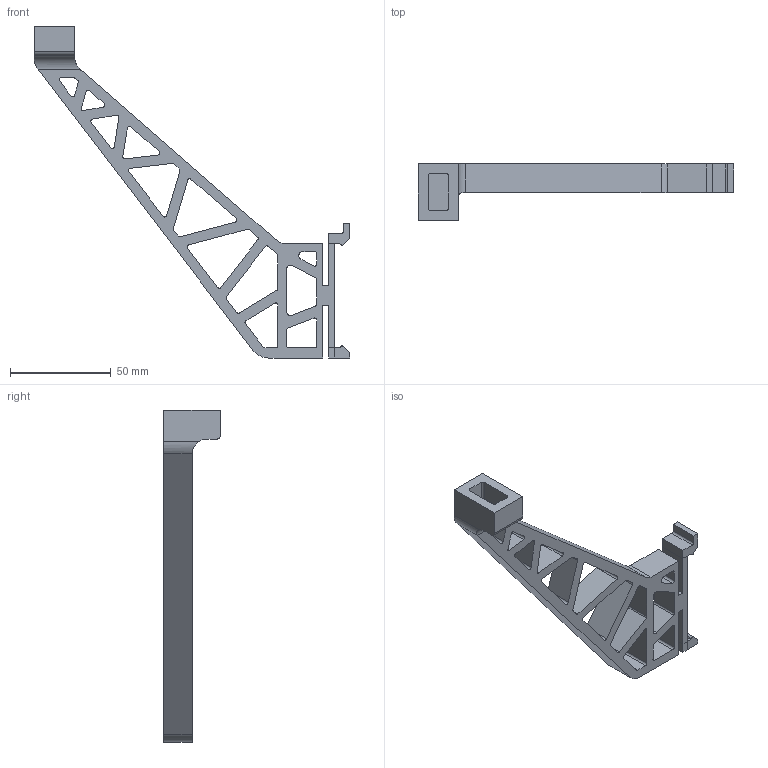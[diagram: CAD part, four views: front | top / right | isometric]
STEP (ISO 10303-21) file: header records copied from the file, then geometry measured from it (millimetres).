
FILE_DESCRIPTION(/* description */ ('STEP AP242','CAx-IF Rec.Pracs.---Representation and Presentation of Product Manufacturing Information (PMI)---4.0---2014-10-13','CAx-IF Rec.Pracs.---3D Tessellated Geometry---0.4---2014-09-14','2;1'),/* implementation_level */ '2;1');
FILE_NAME(/* name */ '6536b39503050d6769cf2f89',/* time_stamp */ '2023-10-23T17:55:33Z',/* author */ (''),/* organization */ (''),/* preprocessor_version */ 'ST-DEVELOPER v19.4',/* originating_system */ ' ',/* authorisation */ ' ');
FILE_SCHEMA (('AP242_MANAGED_MODEL_BASED_3D_ENGINEERING_MIM_LF { 1 0 10303 442 1 1 4 }'));
Length unit declared in the file: metre
Products named in the file (3): Bottom Clip; Arm; Top Clip
Bounding box: 157 x 28.28 x 165 mm (x, y, z)
Volume: 59804.8 mm3; surface area: 29587.3 mm2
Topology: 3 solids, 3 shells, 151 faces, 431 edges, 287 vertices
Faces by surface type: plane 89, cylinder 62
Entity records: 5068 total; most frequent: CARTESIAN_POINT 883, ORIENTED_EDGE 862, DIRECTION 860, EDGE_CURVE 431, LINE 306, VECTOR 306, VERTEX_POINT 287, AXIS2_PLACEMENT_3D 277
